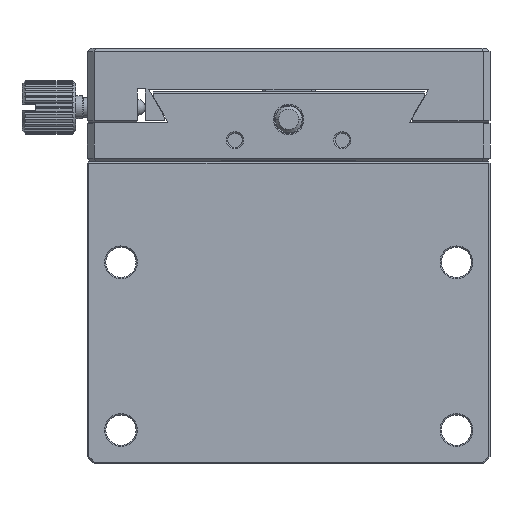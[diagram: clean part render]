
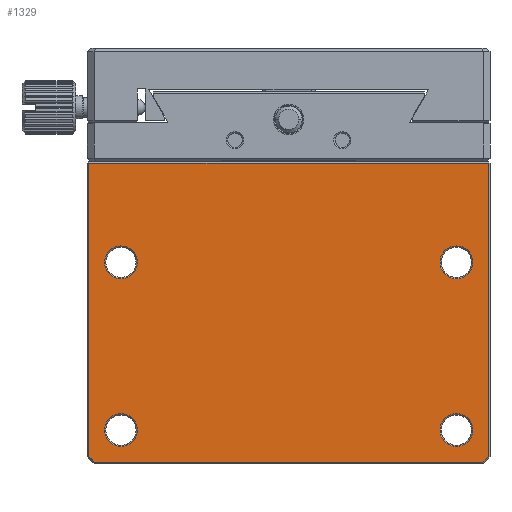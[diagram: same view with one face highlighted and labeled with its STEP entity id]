
A CAD part, front view. The second image highlights one B-rep face of the part: STEP entity #1329.
In plain terms, the highlighted planar face has unit normal (0, -1, 0).
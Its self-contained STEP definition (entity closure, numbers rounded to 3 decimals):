
#198=DIRECTION('',(-0.707,0.,-0.707));
#199=VECTOR('',#198,1.249);
#200=CARTESIAN_POINT('',(-28.917,0.,44.8));
#201=LINE('',#200,#199);
#202=DIRECTION('',(-1.,0.,0.));
#203=VECTOR('',#202,57.834);
#204=CARTESIAN_POINT('',(28.917,0.,44.8));
#205=LINE('',#204,#203);
#206=DIRECTION('',(-0.707,0.,0.707));
#207=VECTOR('',#206,1.249);
#208=CARTESIAN_POINT('',(29.8,0.,43.917));
#209=LINE('',#208,#207);
#210=DIRECTION('',(0.,0.,-1.));
#211=VECTOR('',#210,43.717);
#212=CARTESIAN_POINT('',(29.8,0.,43.917));
#213=LINE('',#212,#211);
#214=DIRECTION('',(-1.,0.,0.));
#215=VECTOR('',#214,59.6);
#216=CARTESIAN_POINT('',(29.8,0.,0.2));
#217=LINE('',#216,#215);
#218=DIRECTION('',(0.,0.,1.));
#219=VECTOR('',#218,43.717);
#220=CARTESIAN_POINT('',(-29.8,0.,0.2));
#221=LINE('',#220,#219);
#222=CARTESIAN_POINT('',(25.,0.,40.));
#223=DIRECTION('',(0.,1.,0.));
#224=DIRECTION('',(-1.,0.,0.));
#225=AXIS2_PLACEMENT_3D('',#222,#223,#224);
#227=CARTESIAN_POINT('',(25.,0.,40.));
#228=DIRECTION('',(0.,1.,0.));
#229=DIRECTION('',(1.,0.,0.));
#230=AXIS2_PLACEMENT_3D('',#227,#228,#229);
#232=CARTESIAN_POINT('',(25.,0.,15.));
#233=DIRECTION('',(0.,1.,0.));
#234=DIRECTION('',(-1.,0.,0.));
#235=AXIS2_PLACEMENT_3D('',#232,#233,#234);
#237=CARTESIAN_POINT('',(25.,0.,15.));
#238=DIRECTION('',(0.,1.,0.));
#239=DIRECTION('',(1.,0.,0.));
#240=AXIS2_PLACEMENT_3D('',#237,#238,#239);
#242=CARTESIAN_POINT('',(-25.,0.,15.));
#243=DIRECTION('',(0.,1.,0.));
#244=DIRECTION('',(-1.,0.,0.));
#245=AXIS2_PLACEMENT_3D('',#242,#243,#244);
#247=CARTESIAN_POINT('',(-25.,0.,15.));
#248=DIRECTION('',(0.,1.,0.));
#249=DIRECTION('',(1.,0.,0.));
#250=AXIS2_PLACEMENT_3D('',#247,#248,#249);
#252=CARTESIAN_POINT('',(-25.,0.,40.));
#253=DIRECTION('',(0.,1.,0.));
#254=DIRECTION('',(-1.,0.,0.));
#255=AXIS2_PLACEMENT_3D('',#252,#253,#254);
#257=CARTESIAN_POINT('',(-25.,0.,40.));
#258=DIRECTION('',(0.,1.,0.));
#259=DIRECTION('',(1.,0.,0.));
#260=AXIS2_PLACEMENT_3D('',#257,#258,#259);
#866=CARTESIAN_POINT('',(-28.917,0.,44.8));
#867=CARTESIAN_POINT('',(-29.8,0.,43.917));
#868=VERTEX_POINT('',#866);
#869=VERTEX_POINT('',#867);
#872=CARTESIAN_POINT('',(28.917,0.,44.8));
#873=VERTEX_POINT('',#872);
#874=CARTESIAN_POINT('',(29.8,0.,43.917));
#875=VERTEX_POINT('',#874);
#878=CARTESIAN_POINT('',(29.8,0.,0.2));
#879=VERTEX_POINT('',#878);
#908=CARTESIAN_POINT('',(-29.8,0.,0.2));
#909=VERTEX_POINT('',#908);
#1006=CARTESIAN_POINT('',(22.55,0.,40.));
#1007=CARTESIAN_POINT('',(27.45,0.,40.));
#1008=VERTEX_POINT('',#1006);
#1009=VERTEX_POINT('',#1007);
#1014=CARTESIAN_POINT('',(22.55,0.,15.));
#1015=CARTESIAN_POINT('',(27.45,0.,15.));
#1016=VERTEX_POINT('',#1014);
#1017=VERTEX_POINT('',#1015);
#1022=CARTESIAN_POINT('',(-27.45,0.,15.));
#1023=CARTESIAN_POINT('',(-22.55,0.,15.));
#1024=VERTEX_POINT('',#1022);
#1025=VERTEX_POINT('',#1023);
#1030=CARTESIAN_POINT('',(-27.45,0.,40.));
#1031=CARTESIAN_POINT('',(-22.55,0.,40.));
#1032=VERTEX_POINT('',#1030);
#1033=VERTEX_POINT('',#1031);
#1288=CARTESIAN_POINT('',(-30.,0.,45.));
#1289=DIRECTION('',(0.,-1.,0.));
#1290=DIRECTION('',(0.,0.,-1.));
#1291=AXIS2_PLACEMENT_3D('',#1288,#1289,#1290);
#1292=PLANE('',#1291);
#1294=ORIENTED_EDGE('',*,*,#1293,.F.);
#1296=ORIENTED_EDGE('',*,*,#1295,.F.);
#1298=ORIENTED_EDGE('',*,*,#1297,.F.);
#1300=ORIENTED_EDGE('',*,*,#1299,.T.);
#1301=ORIENTED_EDGE('',*,*,#1256,.T.);
#1302=ORIENTED_EDGE('',*,*,#1279,.T.);
#1303=EDGE_LOOP('',(#1294,#1296,#1298,#1300,#1301,#1302));
#1304=FACE_OUTER_BOUND('',#1303,.F.);
#1306=ORIENTED_EDGE('',*,*,#1305,.F.);
#1308=ORIENTED_EDGE('',*,*,#1307,.F.);
#1309=EDGE_LOOP('',(#1306,#1308));
#1310=FACE_BOUND('',#1309,.F.);
#1312=ORIENTED_EDGE('',*,*,#1311,.F.);
#1314=ORIENTED_EDGE('',*,*,#1313,.F.);
#1315=EDGE_LOOP('',(#1312,#1314));
#1316=FACE_BOUND('',#1315,.F.);
#1318=ORIENTED_EDGE('',*,*,#1317,.F.);
#1320=ORIENTED_EDGE('',*,*,#1319,.F.);
#1321=EDGE_LOOP('',(#1318,#1320));
#1322=FACE_BOUND('',#1321,.F.);
#1324=ORIENTED_EDGE('',*,*,#1323,.F.);
#1326=ORIENTED_EDGE('',*,*,#1325,.F.);
#1327=EDGE_LOOP('',(#1324,#1326));
#1328=FACE_BOUND('',#1327,.F.);
#1329=ADVANCED_FACE('',(#1304,#1310,#1316,#1322,#1328),#1292,.T.);
#226=CIRCLE('',#225,2.45);
#231=CIRCLE('',#230,2.45);
#236=CIRCLE('',#235,2.45);
#241=CIRCLE('',#240,2.45);
#246=CIRCLE('',#245,2.45);
#251=CIRCLE('',#250,2.45);
#256=CIRCLE('',#255,2.45);
#261=CIRCLE('',#260,2.45);
#1256=EDGE_CURVE('',#879,#909,#217,.T.);
#1279=EDGE_CURVE('',#909,#869,#221,.T.);
#1293=EDGE_CURVE('',#868,#869,#201,.T.);
#1295=EDGE_CURVE('',#873,#868,#205,.T.);
#1297=EDGE_CURVE('',#875,#873,#209,.T.);
#1299=EDGE_CURVE('',#875,#879,#213,.T.);
#1305=EDGE_CURVE('',#1008,#1009,#226,.T.);
#1307=EDGE_CURVE('',#1009,#1008,#231,.T.);
#1311=EDGE_CURVE('',#1016,#1017,#236,.T.);
#1313=EDGE_CURVE('',#1017,#1016,#241,.T.);
#1317=EDGE_CURVE('',#1024,#1025,#246,.T.);
#1319=EDGE_CURVE('',#1025,#1024,#251,.T.);
#1323=EDGE_CURVE('',#1032,#1033,#256,.T.);
#1325=EDGE_CURVE('',#1033,#1032,#261,.T.);
